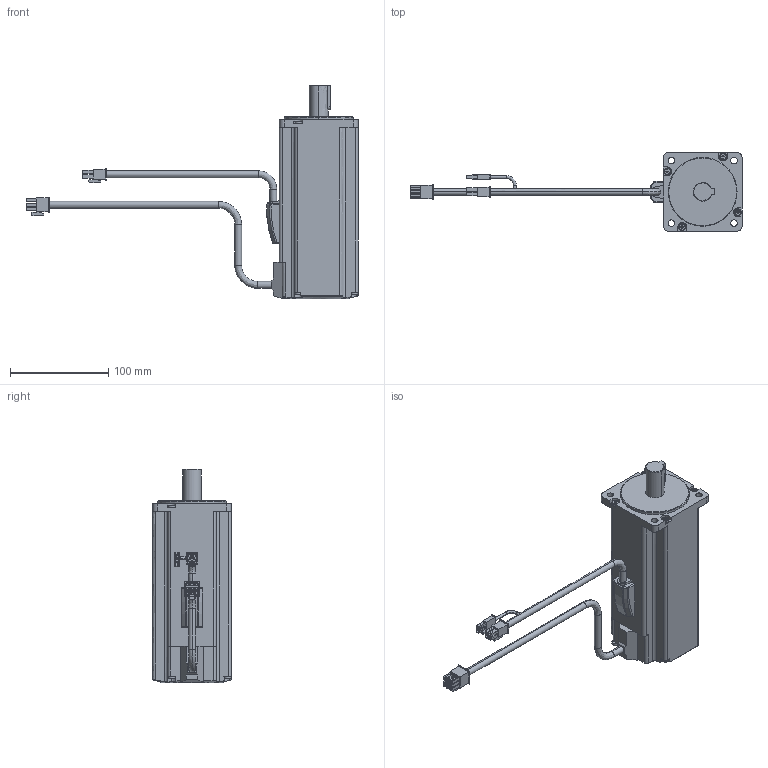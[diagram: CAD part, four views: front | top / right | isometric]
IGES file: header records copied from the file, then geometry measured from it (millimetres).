
Start section:  PTC IGES file: RSMZ-08BA3xT.igs
Global section: file name: RSMZ-08BA3xT.igs; native system: Pro/ENGINEER by Parametric Technology Corporation; preprocessor: 2004440; author: Administrator; organization: Unknown; date: 070904.190348; units: millimetre
Bounding box: 337.7 x 80 x 217 mm (x, y, z)
Volume: 1046599.6 mm3; surface area: 90411.4 mm2
Topology: 1 solids, 1 shells, 501 faces, 1267 edges, 822 vertices
Faces by surface type: bspline 361, revolution 140
